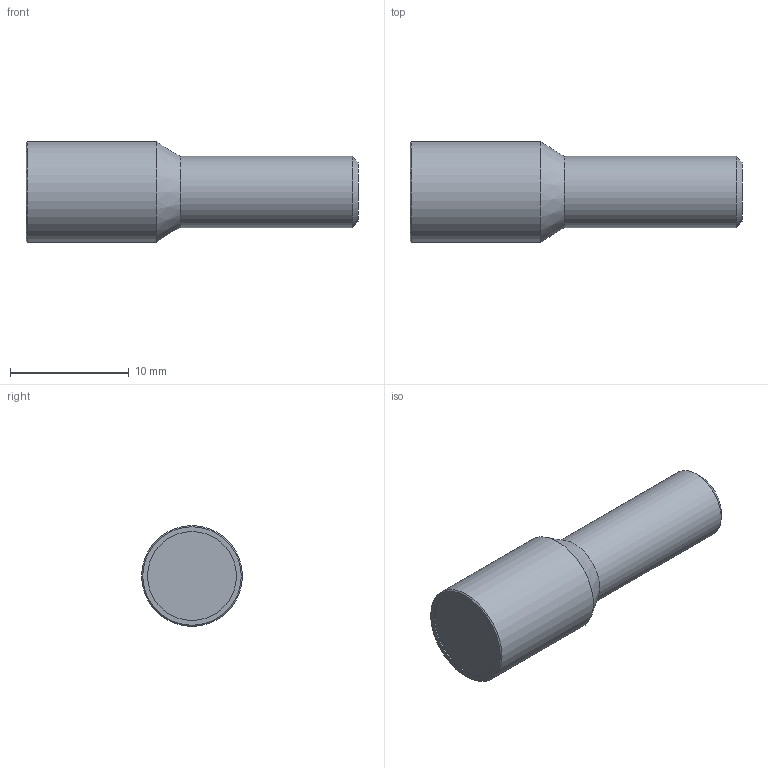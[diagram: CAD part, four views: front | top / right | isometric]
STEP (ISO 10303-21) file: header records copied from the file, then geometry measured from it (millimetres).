
FILE_DESCRIPTION(/* description */ ('LWL Typ-A 3.0'),/* implementation_level */ '2;1');
FILE_NAME(/* name */ 'T:\E-Mail-Zeichnungen\STEP\HOMEPAGE\LWL_Typ-A_3.0.stp',/* time_stamp */ '2015-04-20T08:45:48+02:00',/* author */ ('simone.schrank'),/* organization */ (''),/* preprocessor_version */ 'ST-DEVELOPER v15.6',/* originating_system */ 'Autodesk Inventor 2015',/* authorisation */ '');
FILE_SCHEMA (('AUTOMOTIVE_DESIGN { 1 0 10303 214 3 1 1 }'));
Length unit declared in the file: millimetre
Products named in the file (1): LWL_Typ-A_3.0
Bounding box: 28 x 8.5 x 8.5 mm (x, y, z)
Volume: 1124.8 mm3; surface area: 710.2 mm2
Topology: 1 solids, 1 shells, 11 faces, 17 edges, 10 vertices
Faces by surface type: plane 4, cylinder 4, cone 3
Full cylindrical faces by diameter (mm): 3 x1, 6 x1, 7.5 x1, 8.5 x1
Entity records: 247 total; most frequent: DIRECTION 44, CARTESIAN_POINT 32, AXIS2_PLACEMENT_3D 22, EDGE_LOOP 20, ORIENTED_EDGE 20, FACE_OUTER_BOUND 11, ADVANCED_FACE 11, CIRCLE 10
